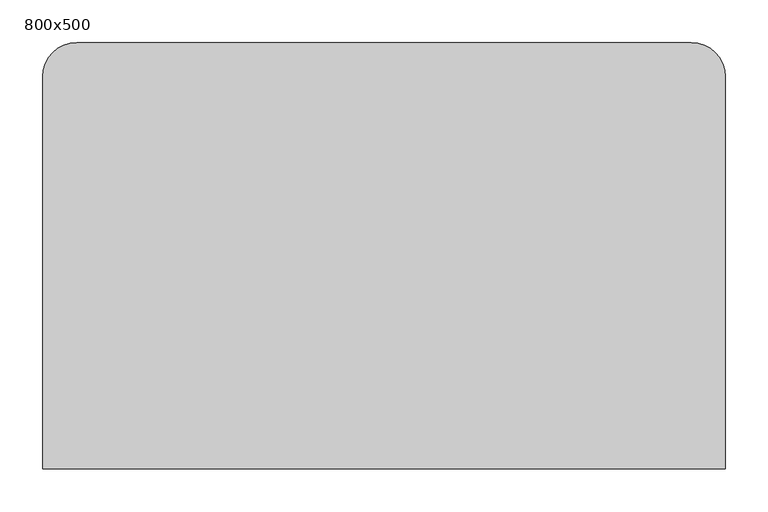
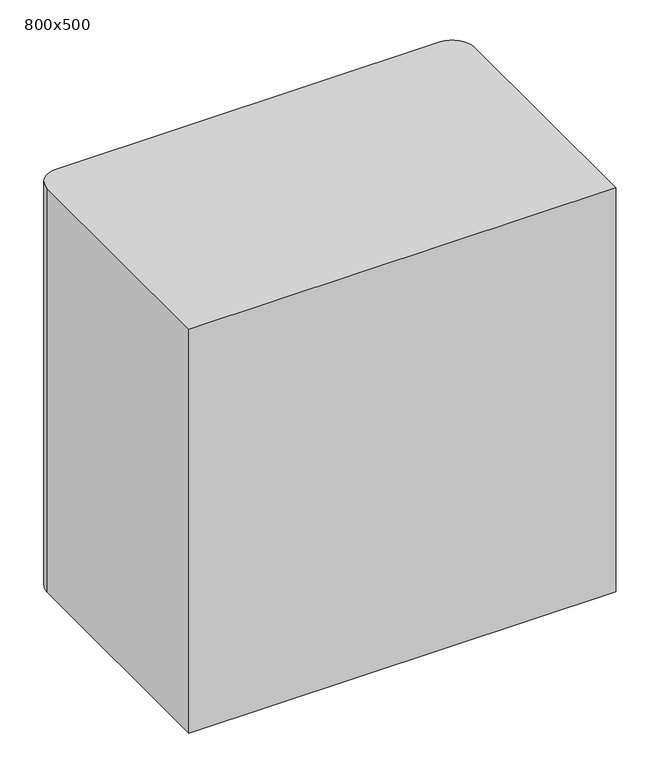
"""IFC4 building model written with IfcOpenShell, lengths in millimetres: flow terminal geometry, SP_раковина_LEG : 800x500."""

from ifc_helpers import new_model, si_unit, point, frame_2d, origin, origin_with_axes, place, context, project, spatial, polyline, circle_curve, trimmed, segment, composite_curve, outline, extrude, source, transform, mapped, element, save


def flow_terminal_800x500_54d29f63(model_context):
    return source(origin(), model_context, "Body", "SweptSolid", [
        extrude(outline(composite_curve([segment(polyline([(400.0, 0.0), (-400.0, 0.0), (-400.0, 460.0)]), True, "CONTINUOUS"), segment(trimmed(circle_curve(frame_2d((-360.0, 460.0)), 40.0), [point((-400.0, 460.0))], [point((-360.0, 500.0))], False, "CARTESIAN"), True, "CONTINUOUS"), segment(polyline([(-360.0, 500.0), (360.0, 500.0)]), True, "CONTINUOUS"), segment(trimmed(circle_curve(frame_2d((360.0, 460.0)), 40.0), [point((360.0, 500.0))], [point((400.0, 460.0))], False, "CARTESIAN"), True, "CONTINUOUS"), segment(polyline([(400.0, 460.0), (400.0, 0.0)]), True, "CONTINUOUS")], self_intersect=False)), origin_with_axes(), (0.0, 0.0, 1.0), 800.0),
    ])


if __name__ == "__main__":
    model = new_model("IFC4")
    model_context = context("Model", 3, world=origin())
    ifc_project = project(units=[si_unit("LENGTHUNIT", "METRE", prefix="MILLI")], contexts=[model_context])
    site = spatial("IfcSite", under=ifc_project)
    building = spatial("IfcBuilding", under=site)
    placement = place(None, origin())
    flow_terminal_800x500_shape = flow_terminal_800x500_54d29f63(model_context)
    element("IfcFlowTerminal", 1, ObjectType="SP_раковина_LEG : 800x500", at=placement, inside=building, context=model_context, shape_type="MappedRepresentation", body=[
        mapped(flow_terminal_800x500_shape, transform((0.0, 0.0, 0.0), x_axis=(1.0, 0.0, 0.0), y_axis=(0.0, 1.0, 0.0), z_axis=(0.0, 0.0, 1.0))),
    ])
    save(model, "model.ifc")
